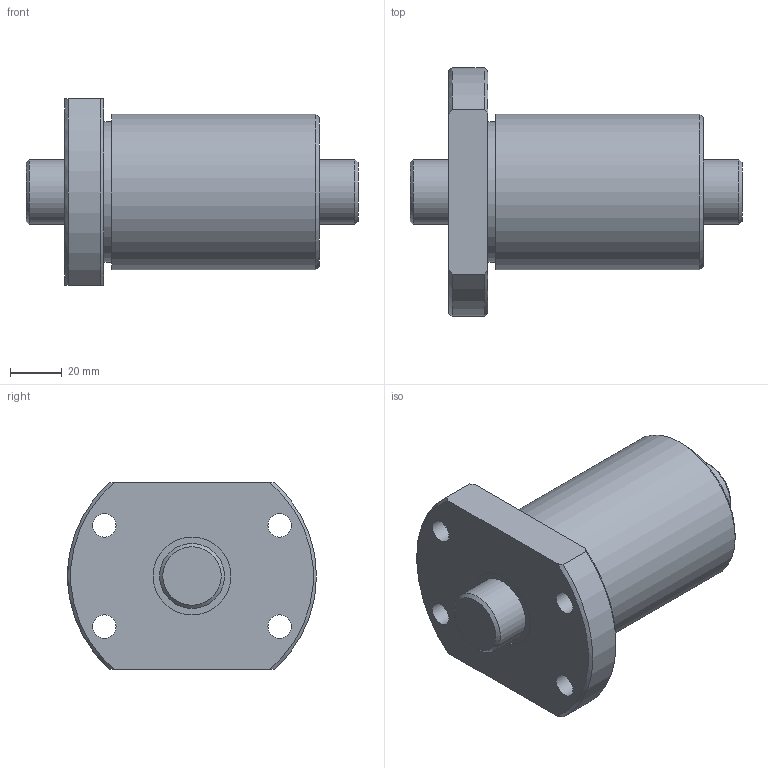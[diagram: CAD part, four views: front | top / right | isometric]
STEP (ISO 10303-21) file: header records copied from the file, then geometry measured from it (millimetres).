
FILE_DESCRIPTION(/* description */ ('STEP AP203'),/* implementation_level */ '2;1');
FILE_NAME(/* name */ 'BTK2510V-5.3ZZ+128LC7T_000',/* time_stamp */ '2025-01-16T07:56:04+01:00',/* author */ ('License CC BY-ND 4.0'),/* organization */ ('CADENAS'),/* preprocessor_version */ 'ST-DEVELOPER v19.3',/* originating_system */ 'PARTsolutions',/* authorisation */ ' ');
FILE_SCHEMA (('CONFIG_CONTROL_DESIGN'));
Length unit declared in the file: millimetre
Products named in the file (3): BTK2510V-5.3ZZ+128LC7T_000; BTK 2510V-5.300 Shaft; BTK 2510V-5.3ZZ Nut
Assembly tree (2 placements, depth 2):
  BTK2510V-5.3ZZ+128LC7T_000
    BTK 2510V-5.300 Shaft
    BTK 2510V-5.3ZZ Nut
Bounding box: 128 x 96 x 72 mm (x, y, z)
Volume: 335695.3 mm3; surface area: 52353.9 mm2
Topology: 2 solids, 2 shells, 31 faces, 66 edges, 43 vertices
Faces by surface type: cylinder 13, plane 10, cone 8
Full cylindrical faces by diameter (mm): 4.917 x1, 9 x4, 25 x2, 30 x2, 54 x1, 60 x1
Entity records: 887 total; most frequent: CARTESIAN_POINT 170, DIRECTION 140, ORIENTED_EDGE 100, AXIS2_PLACEMENT_3D 66, EDGE_LOOP 62, FACE_BOUND 62, EDGE_CURVE 50, VERTEX_POINT 42
